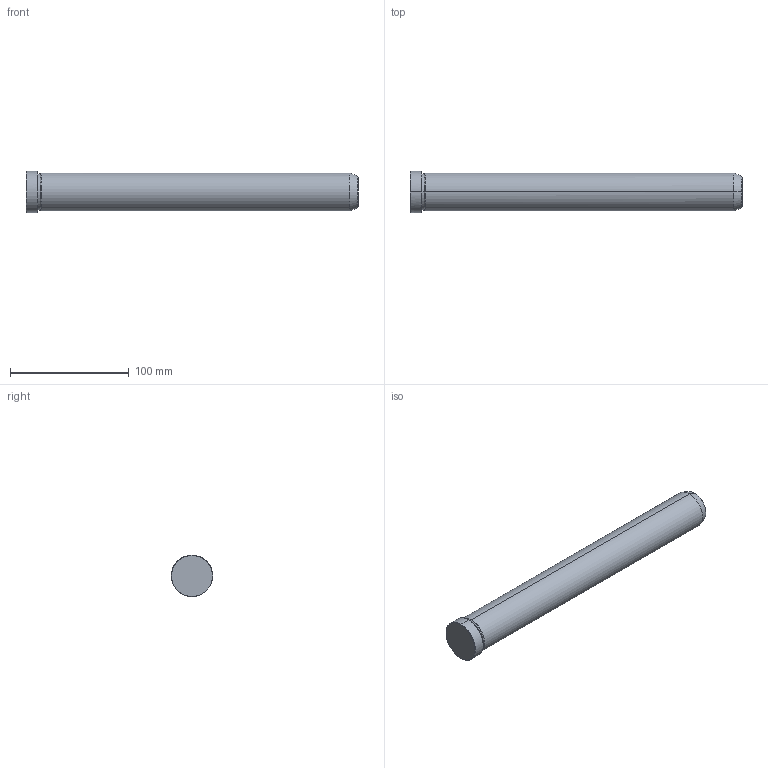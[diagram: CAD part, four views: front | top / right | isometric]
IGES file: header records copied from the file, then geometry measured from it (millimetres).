
Start section: START RECORD GO HERE.
Global section: file name: 549-32X280.igs; native system: DASSAULT SYSTEMES CATIA V5 R20 - www.3ds.com; preprocessor: CATIA Version 5 Release 20 ; author: Utente; organization: NB04-ASUS; date: 20211218.085706; units: millimetre
Bounding box: 280 x 35 x 35 mm (x, y, z)
Surface area: 29898.7 mm2 (no closed solid volume)
Topology: 0 solids, 0 shells, 19 faces, 112 edges, 112 vertices
Faces by surface type: revolution 16, plane 3
